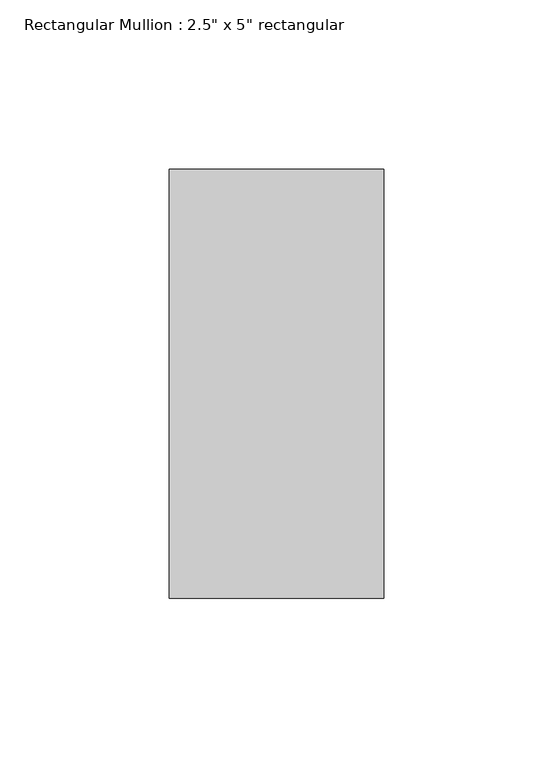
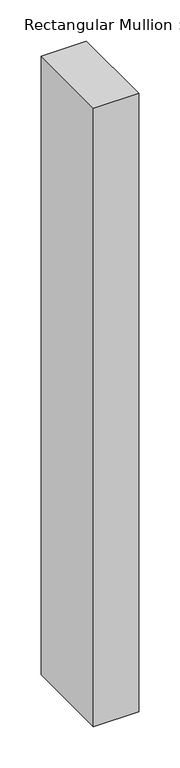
"""IFC4 building model written with IfcOpenShell, lengths in millimetres: member geometry."""

from ifc_helpers import new_model, si_unit, frame, origin, place, context, project, spatial, polyline, outline, extrude, source, transform, mapped, element, save


def member_173ef4f5(model_context):
    return source(origin(), model_context, "Body", "SweptSolid", [
        extrude(outline(polyline([(31.75, 63.5), (31.75, -63.5), (-31.75, -63.5), (-31.75, 63.5), (31.75, 63.5)])), frame((0.0, 0.0, -917.1214286), z_axis=(0.0, 0.0, 1.0), x_axis=(1.0, 0.0, 0.0)), (0.0, 0.0, 1.0), 917.1214286),
    ])


if __name__ == "__main__":
    model = new_model("IFC4")
    model_context = context("Model", 3, world=origin())
    ifc_project = project(units=[si_unit("LENGTHUNIT", "METRE", prefix="MILLI")], contexts=[model_context])
    site = spatial("IfcSite", under=ifc_project)
    building = spatial("IfcBuilding", under=site)
    placement = place(None, origin())
    member_shape = member_173ef4f5(model_context)
    element("IfcMember", 1, ObjectType="Rectangular Mullion : 2.5\" x 5\" rectangular", at=placement, inside=building, context=model_context, shape_type="MappedRepresentation", body=[
        mapped(member_shape, transform((0.0, 0.0, 0.0), x_axis=(1.0, 0.0, 0.0), y_axis=(0.0, 1.0, 0.0), z_axis=(0.0, 0.0, 1.0))),
    ])
    save(model, "model.ifc")
